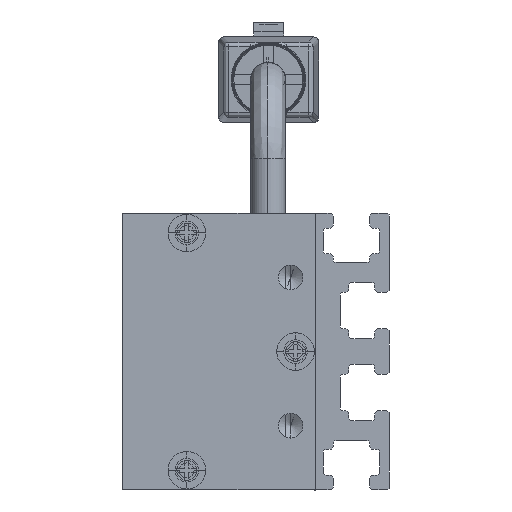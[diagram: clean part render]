
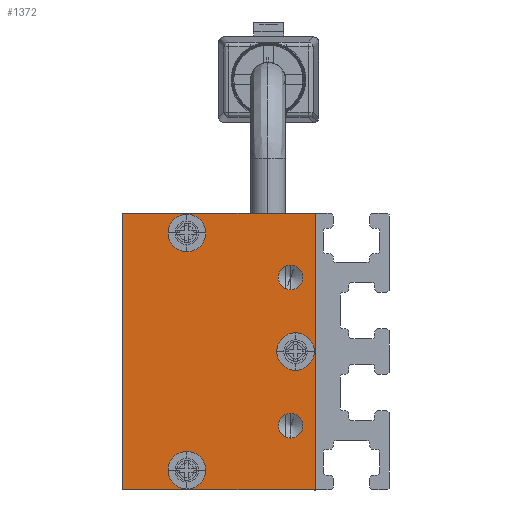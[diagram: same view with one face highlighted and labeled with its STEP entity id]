
A CAD part, left-side view. The second image highlights one B-rep face of the part: STEP entity #1372.
In plain terms, the highlighted planar face has unit normal (-1, 0, 0) as drawn and (0, 0, -1) by its records, which use the part's own axes.
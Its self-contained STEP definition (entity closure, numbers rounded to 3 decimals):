
#416 = EDGE_LOOP ( 'NONE', ( #3304, #11067 ) ) ;
#479 = CARTESIAN_POINT ( 'NONE',  ( -8.75, 2.5, -2.5 ) ) ;
#757 = EDGE_LOOP ( 'NONE', ( #12244, #9612 ) ) ;
#867 = DIRECTION ( 'NONE',  ( 0., 0., -1. ) ) ;
#906 = DIRECTION ( 'NONE',  ( -1., 0., 0. ) ) ;
#1015 = CARTESIAN_POINT ( 'NONE',  ( 7.5, 2.5, -2.5 ) ) ;
#1063 = LINE ( 'NONE', #12023, #13191 ) ;
#1310 = AXIS2_PLACEMENT_3D ( 'NONE', #9546, #3777, #10337 ) ;
#1372 = ADVANCED_FACE ( 'NONE', ( #8484, #7434, #1805, #10762, #5229, #9498 ), #10696, .T. ) ;
#1442 = CARTESIAN_POINT ( 'NONE',  ( -6.25, 2.5, -2.5 ) ) ;
#1542 = VERTEX_POINT ( 'NONE', #9841 ) ;
#1656 = CARTESIAN_POINT ( 'NONE',  ( 12., 13., -2.5 ) ) ;
#1745 = CARTESIAN_POINT ( 'NONE',  ( -14., 19.5, -2.5 ) ) ;
#1805 = FACE_BOUND ( 'NONE', #9732, .T. ) ;
#1896 = EDGE_CURVE ( 'NONE', #13770, #7747, #9229, .T. ) ;
#1942 = AXIS2_PLACEMENT_3D ( 'NONE', #4339, #5487, #2206 ) ;
#2119 = EDGE_CURVE ( 'NONE', #14017, #1542, #9682, .T. ) ;
#2167 = AXIS2_PLACEMENT_3D ( 'NONE', #1015, #4144, #6576 ) ;
#2196 = EDGE_CURVE ( 'NONE', #11297, #12296, #9566, .T. ) ;
#2199 = LINE ( 'NONE', #3322, #6283 ) ;
#2205 = DIRECTION ( 'NONE',  ( -1., 0., 0. ) ) ;
#2206 = DIRECTION ( 'NONE',  ( -1., 0., 0. ) ) ;
#2317 = EDGE_CURVE ( 'NONE', #12296, #5465, #5883, .T. ) ;
#2392 = EDGE_CURVE ( 'NONE', #12640, #11830, #13966, .T. ) ;
#2770 = VERTEX_POINT ( 'NONE', #5691 ) ;
#3053 = DIRECTION ( 'NONE',  ( 0., 0., -1. ) ) ;
#3211 = CARTESIAN_POINT ( 'NONE',  ( 10.1, 13., -2.5 ) ) ;
#3244 = EDGE_CURVE ( 'NONE', #1542, #14017, #10173, .T. ) ;
#3304 = ORIENTED_EDGE ( 'NONE', *, *, #8109, .F. ) ;
#3322 = CARTESIAN_POINT ( 'NONE',  ( 14., 19.5, -2.5 ) ) ;
#3540 = AXIS2_PLACEMENT_3D ( 'NONE', #1656, #3919, #12537 ) ;
#3729 = VERTEX_POINT ( 'NONE', #479 ) ;
#3777 = DIRECTION ( 'NONE',  ( 0., 0., -1. ) ) ;
#3880 = ORIENTED_EDGE ( 'NONE', *, *, #2196, .F. ) ;
#3919 = DIRECTION ( 'NONE',  ( 0., 0., -1. ) ) ;
#4074 = DIRECTION ( 'NONE',  ( -1., 0., 0. ) ) ;
#4103 = EDGE_CURVE ( 'NONE', #7747, #13770, #7000, .T. ) ;
#4144 = DIRECTION ( 'NONE',  ( 0., 0., -1. ) ) ;
#4156 = EDGE_CURVE ( 'NONE', #3729, #13432, #9276, .T. ) ;
#4234 = CARTESIAN_POINT ( 'NONE',  ( 14., 19.5, -2.5 ) ) ;
#4258 = EDGE_LOOP ( 'NONE', ( #12807, #9796 ) ) ;
#4339 = CARTESIAN_POINT ( 'NONE',  ( -12., 13., -2.5 ) ) ;
#4605 = ORIENTED_EDGE ( 'NONE', *, *, #2317, .F. ) ;
#4733 = DIRECTION ( 'NONE',  ( 1., 0., 0. ) ) ;
#4951 = AXIS2_PLACEMENT_3D ( 'NONE', #8783, #13102, #8709 ) ;
#4993 = AXIS2_PLACEMENT_3D ( 'NONE', #8804, #13954, #906 ) ;
#5229 = FACE_BOUND ( 'NONE', #757, .T. ) ;
#5465 = VERTEX_POINT ( 'NONE', #6055 ) ;
#5487 = DIRECTION ( 'NONE',  ( 0., 0., -1. ) ) ;
#5653 = VERTEX_POINT ( 'NONE', #4234 ) ;
#5691 = CARTESIAN_POINT ( 'NONE',  ( 8.75, 2.5, -2.5 ) ) ;
#5883 = LINE ( 'NONE', #11204, #7453 ) ;
#6055 = CARTESIAN_POINT ( 'NONE',  ( 14., 0., -2.5 ) ) ;
#6277 = CARTESIAN_POINT ( 'NONE',  ( 6.25, 2.5, -2.5 ) ) ;
#6283 = VECTOR ( 'NONE', #9816, 1000. ) ;
#6431 = CARTESIAN_POINT ( 'NONE',  ( -14., 0., -2.5 ) ) ;
#6510 = DIRECTION ( 'NONE',  ( 0., -1., 0. ) ) ;
#6529 = CIRCLE ( 'NONE', #1310, 1.9 ) ;
#6546 = DIRECTION ( 'NONE',  ( -1., 0., 0. ) ) ;
#6570 = EDGE_CURVE ( 'NONE', #11830, #12640, #6529, .T. ) ;
#6576 = DIRECTION ( 'NONE',  ( -1., 0., 0. ) ) ;
#6809 = CIRCLE ( 'NONE', #11356, 1.25 ) ;
#7000 = CIRCLE ( 'NONE', #9965, 1.9 ) ;
#7149 = EDGE_CURVE ( 'NONE', #5465, #5653, #2199, .T. ) ;
#7218 = AXIS2_PLACEMENT_3D ( 'NONE', #9173, #9459, #11387 ) ;
#7291 = CARTESIAN_POINT ( 'NONE',  ( 0., 0., -2.5 ) ) ;
#7320 = EDGE_LOOP ( 'NONE', ( #8821, #10933 ) ) ;
#7434 = FACE_BOUND ( 'NONE', #4258, .T. ) ;
#7453 = VECTOR ( 'NONE', #4733, 1000. ) ;
#7747 = VERTEX_POINT ( 'NONE', #11430 ) ;
#7924 = CARTESIAN_POINT ( 'NONE',  ( 13.9, 13., -2.5 ) ) ;
#8109 = EDGE_CURVE ( 'NONE', #10589, #2770, #11134, .T. ) ;
#8142 = AXIS2_PLACEMENT_3D ( 'NONE', #9751, #8751, #2205 ) ;
#8308 = CIRCLE ( 'NONE', #2167, 1.25 ) ;
#8484 = FACE_BOUND ( 'NONE', #7320, .T. ) ;
#8709 = DIRECTION ( 'NONE',  ( -1., 0., 0. ) ) ;
#8751 = DIRECTION ( 'NONE',  ( 0., 0., -1. ) ) ;
#8783 = CARTESIAN_POINT ( 'NONE',  ( 0., 2., -2.5 ) ) ;
#8804 = CARTESIAN_POINT ( 'NONE',  ( 7.5, 2.5, -2.5 ) ) ;
#8821 = ORIENTED_EDGE ( 'NONE', *, *, #2392, .F. ) ;
#9103 = ORIENTED_EDGE ( 'NONE', *, *, #3244, .F. ) ;
#9173 = CARTESIAN_POINT ( 'NONE',  ( 0., 2., -2.5 ) ) ;
#9229 = CIRCLE ( 'NONE', #1942, 1.9 ) ;
#9276 = CIRCLE ( 'NONE', #8142, 1.25 ) ;
#9307 = EDGE_CURVE ( 'NONE', #13432, #3729, #6809, .T. ) ;
#9459 = DIRECTION ( 'NONE',  ( 0., 0., -1. ) ) ;
#9498 = FACE_OUTER_BOUND ( 'NONE', #13069, .T. ) ;
#9533 = DIRECTION ( 'NONE',  ( 0., 0., -1. ) ) ;
#9546 = CARTESIAN_POINT ( 'NONE',  ( 12., 13., -2.5 ) ) ;
#9566 = LINE ( 'NONE', #6431, #11055 ) ;
#9612 = ORIENTED_EDGE ( 'NONE', *, *, #9307, .F. ) ;
#9662 = DIRECTION ( 'NONE',  ( -1., 0., 0. ) ) ;
#9682 = CIRCLE ( 'NONE', #4951, 1.9 ) ;
#9732 = EDGE_LOOP ( 'NONE', ( #9103, #10131 ) ) ;
#9751 = CARTESIAN_POINT ( 'NONE',  ( -7.5, 2.5, -2.5 ) ) ;
#9796 = ORIENTED_EDGE ( 'NONE', *, *, #1896, .F. ) ;
#9816 = DIRECTION ( 'NONE',  ( 0., 1., 0. ) ) ;
#9841 = CARTESIAN_POINT ( 'NONE',  ( -1.9, 2., -2.5 ) ) ;
#9965 = AXIS2_PLACEMENT_3D ( 'NONE', #10615, #867, #10543 ) ;
#10131 = ORIENTED_EDGE ( 'NONE', *, *, #2119, .F. ) ;
#10173 = CIRCLE ( 'NONE', #7218, 1.9 ) ;
#10227 = EDGE_CURVE ( 'NONE', #2770, #10589, #8308, .T. ) ;
#10337 = DIRECTION ( 'NONE',  ( -1., 0., 0. ) ) ;
#10543 = DIRECTION ( 'NONE',  ( -1., 0., 0. ) ) ;
#10589 = VERTEX_POINT ( 'NONE', #6277 ) ;
#10615 = CARTESIAN_POINT ( 'NONE',  ( -12., 13., -2.5 ) ) ;
#10696 = PLANE ( 'NONE',  #12637 ) ;
#10731 = CARTESIAN_POINT ( 'NONE',  ( 1.9, 2., -2.5 ) ) ;
#10762 = FACE_BOUND ( 'NONE', #416, .T. ) ;
#10816 = CARTESIAN_POINT ( 'NONE',  ( -10.1, 13., -2.5 ) ) ;
#10933 = ORIENTED_EDGE ( 'NONE', *, *, #6570, .F. ) ;
#11055 = VECTOR ( 'NONE', #6510, 1000. ) ;
#11067 = ORIENTED_EDGE ( 'NONE', *, *, #10227, .F. ) ;
#11134 = CIRCLE ( 'NONE', #4993, 1.25 ) ;
#11204 = CARTESIAN_POINT ( 'NONE',  ( 14., 0., -2.5 ) ) ;
#11297 = VERTEX_POINT ( 'NONE', #1745 ) ;
#11356 = AXIS2_PLACEMENT_3D ( 'NONE', #13776, #9533, #9662 ) ;
#11387 = DIRECTION ( 'NONE',  ( -1., 0., 0. ) ) ;
#11430 = CARTESIAN_POINT ( 'NONE',  ( -13.9, 13., -2.5 ) ) ;
#11830 = VERTEX_POINT ( 'NONE', #7924 ) ;
#11841 = ORIENTED_EDGE ( 'NONE', *, *, #12194, .F. ) ;
#12023 = CARTESIAN_POINT ( 'NONE',  ( -14., 19.5, -2.5 ) ) ;
#12194 = EDGE_CURVE ( 'NONE', #5653, #11297, #1063, .T. ) ;
#12244 = ORIENTED_EDGE ( 'NONE', *, *, #4156, .F. ) ;
#12257 = ORIENTED_EDGE ( 'NONE', *, *, #7149, .F. ) ;
#12296 = VERTEX_POINT ( 'NONE', #13416 ) ;
#12537 = DIRECTION ( 'NONE',  ( -1., 0., 0. ) ) ;
#12637 = AXIS2_PLACEMENT_3D ( 'NONE', #7291, #3053, #4074 ) ;
#12640 = VERTEX_POINT ( 'NONE', #3211 ) ;
#12807 = ORIENTED_EDGE ( 'NONE', *, *, #4103, .F. ) ;
#13069 = EDGE_LOOP ( 'NONE', ( #12257, #4605, #3880, #11841 ) ) ;
#13102 = DIRECTION ( 'NONE',  ( 0., 0., -1. ) ) ;
#13191 = VECTOR ( 'NONE', #6546, 1000. ) ;
#13416 = CARTESIAN_POINT ( 'NONE',  ( -14., 0., -2.5 ) ) ;
#13432 = VERTEX_POINT ( 'NONE', #1442 ) ;
#13770 = VERTEX_POINT ( 'NONE', #10816 ) ;
#13776 = CARTESIAN_POINT ( 'NONE',  ( -7.5, 2.5, -2.5 ) ) ;
#13954 = DIRECTION ( 'NONE',  ( 0., 0., -1. ) ) ;
#13966 = CIRCLE ( 'NONE', #3540, 1.9 ) ;
#14017 = VERTEX_POINT ( 'NONE', #10731 ) ;
